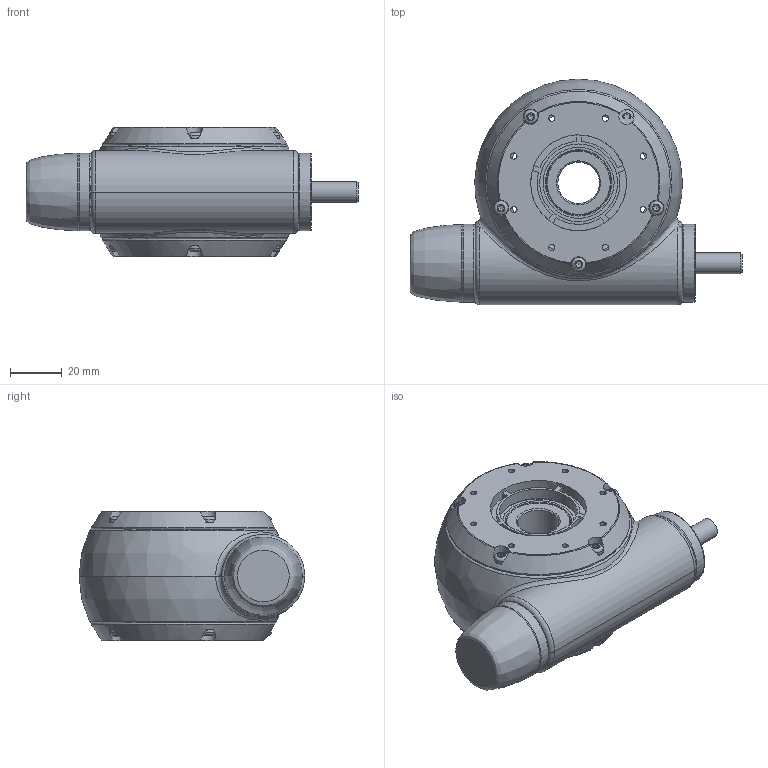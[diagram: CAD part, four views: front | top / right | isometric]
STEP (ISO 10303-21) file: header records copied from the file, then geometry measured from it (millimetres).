
FILE_DESCRIPTION(/* description */ (''),/* implementation_level */ '2;1');
FILE_NAME(/* name */ 'C:\ProgramData\PROCAD GmbH & Co. KG\NdfWork\343214_NdfWork\D00296355.step',/* time_stamp */ '2021-03-15T16:37:36+01:00',/* author */ ('fberger'),/* organization */ (''),/* preprocessor_version */ 'ST-DEVELOPER v18.1',/* originating_system */ 'Autodesk Inventor 2020',/* authorisation */ '');
FILE_SCHEMA (('AUTOMOTIVE_DESIGN { 1 0 10303 214 3 1 1 }'));
Length unit declared in the file: millimetre
Products named in the file (16): D00296355.iam; D00169642.ipt; D00169186.ipt; D00188918.ipt; D00184198.ipt; D00192694.ipt; D00188941.ipt; D00169185; D00187704.ipt; D00187700.ipt; D00187707.ipt; D00190027.ipt; D00270782.ipt; D00169074.ipt; D00170045.ipt; D00169073.ipt
Assembly tree (31 placements, depth 2):
  D00296355.iam
    D00169642.ipt  x2
    D00169186.ipt  x2
    D00188918.ipt  x2
    D00184198.ipt  x4
    D00192694.ipt
    D00188941.ipt  x2
    D00169185  x2
    D00187704.ipt  x2
    D00187700.ipt  x4
    D00187707.ipt  x4
    D00190027.ipt
    D00270782.ipt
    D00169074.ipt
    D00170045.ipt  x2
    D00169073.ipt
Bounding box: 128 x 87 x 50 mm (x, y, z)
Volume: 129767.7 mm3; surface area: 109495.9 mm2
Topology: 71 solids, 71 shells, 1039 faces, 2739 edges, 1871 vertices
Faces by surface type: cylinder 435, plane 295, cone 124, torus 98, sphere 80, bspline 7
Full cylindrical faces by diameter (mm): 2 x8, 2.4 x16, 3 x10, 3.3 x20, 4 x18, 5.3 x10, 8 x11, 8.32 x2, 10 x4, 12 x2, 15 x4, 15.5 x1, 15.68 x2, 16 x5, 17 x2, 20 x2, 23 x2, 24 x1, 25 x4, 26 x2, 27.4 x8, 28.5 x4, 30 x4, 33.3 x4, 34.3 x8, 37 x8, 41 x2, 50.25 x1, 55 x2
Entity records: 18449 total; most frequent: CARTESIAN_POINT 3951, DIRECTION 3138, ORIENTED_EDGE 2662, AXIS2_PLACEMENT_3D 1341, EDGE_CURVE 1331, VERTEX_POINT 930, CIRCLE 772, EDGE_LOOP 675
